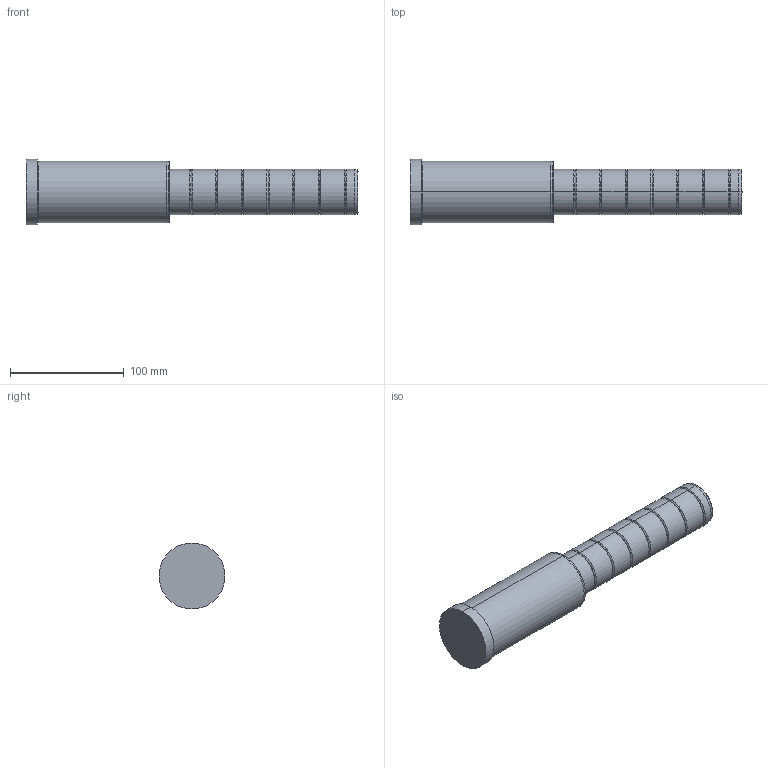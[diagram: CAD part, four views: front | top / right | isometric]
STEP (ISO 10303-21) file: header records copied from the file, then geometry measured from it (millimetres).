
FILE_DESCRIPTION( ( 'STEP AP203' ), '1' );
FILE_NAME( 'C:/Projects/D02 - 40x126x166.step', '2003-01-04T14:05:38', ( ' ' ), ( ' ' ), 'XStep 1.0', ' ', ' ' );
FILE_SCHEMA( ( 'CONFIG_CONTROL_DESIGN' ) );
Length unit declared in the file: metre
Products named in the file (1): 1
Bounding box: 292 x 58 x 58 mm (x, y, z)
Volume: 499350.2 mm3; surface area: 48374.2 mm2
Topology: 1 solids, 1 shells, 66 faces, 130 edges, 70 vertices
Faces by surface type: bspline 38, revolution 28
Entity records: 2117 total; most frequent: CARTESIAN_POINT 917, ORIENTED_EDGE 260, DIRECTION 198, EDGE_CURVE 130, AXIS2_PLACEMENT_3D 71, EDGE_LOOP 70, VERTEX_POINT 70, CIRCLE 70
